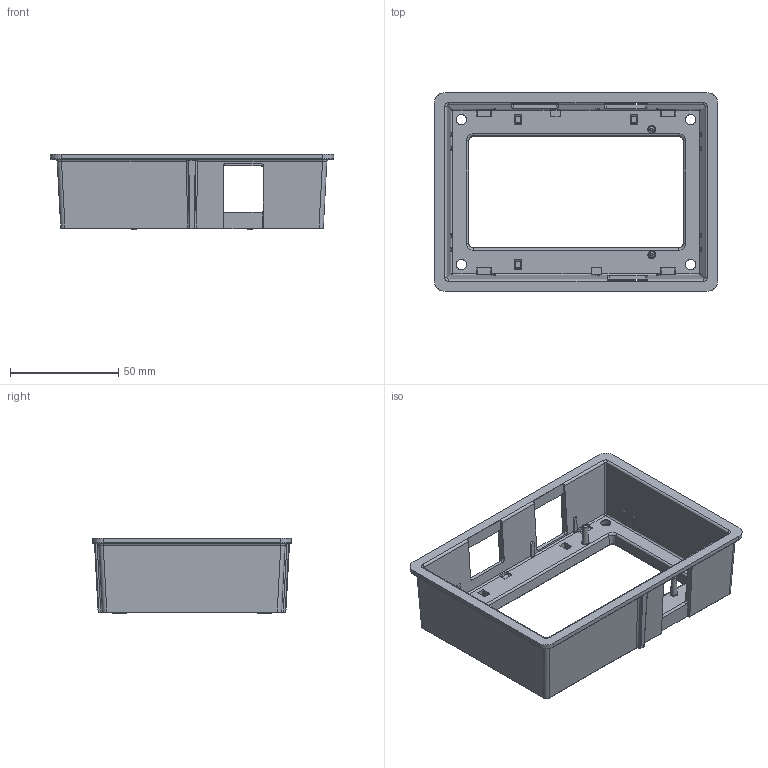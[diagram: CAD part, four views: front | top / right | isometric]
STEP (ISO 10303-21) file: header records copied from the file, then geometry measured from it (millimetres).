
FILE_DESCRIPTION((''),'2;1');
FILE_NAME('2033265_ASM','2022-10-13T14:34:13',('j.rink'),(''),'CREO PARAMETRIC BY PTC INC, 2019292','CREO PARAMETRIC BY PTC INC, 2019292','');
FILE_SCHEMA(('AUTOMOTIVE_DESIGN { 1 0 10303 214 1 1 1 1 }'));
Products named in the file (2): 2017535_AF0; 2033265_ASM
Assembly tree (1 placements, depth 2):
  2033265_ASM
    2017535_AF0
Bounding box: 131 x 92 x 34.9 mm (x, y, z)
Volume: 53368 mm3; surface area: 40034.9 mm2
Topology: 1 solids, 1 shells, 1100 faces, 2671 edges, 1615 vertices
Faces by surface type: cylinder 404, plane 359, bspline 114, sphere 97, extrusion 70, cone 32, torus 24
Entity records: 53346 total; most frequent: CARTESIAN_POINT 12496, ORIENTED_EDGE 5298, DIRECTION 4731, PRESENTATION_STYLE_ASSIGNMENT 3846, STYLED_ITEM 3846, CURVE_STYLE 2745, EDGE_CURVE 2649, AXIS2_PLACEMENT_3D 1589
